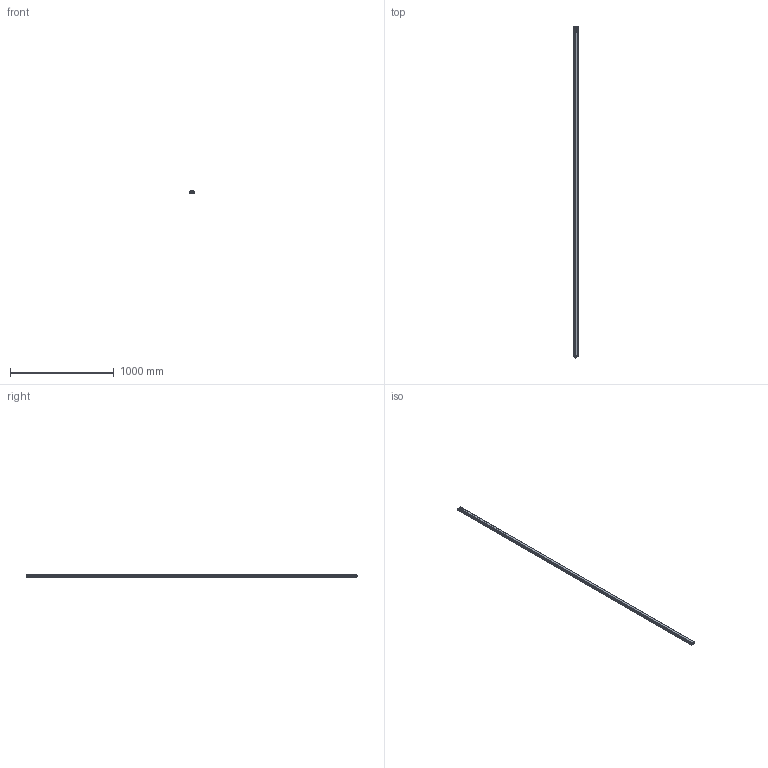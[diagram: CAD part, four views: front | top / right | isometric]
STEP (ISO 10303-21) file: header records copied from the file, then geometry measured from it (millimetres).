
FILE_DESCRIPTION(/* description */ (''),/* implementation_level */ '2;1');
FILE_NAME(/* name */ 'C:\Users\andre\SynologyDrive\Optoscan\Libreria Componenti\00 - Barriere\Polaris sorgente\Polaris_3200_TX.stp',/* time_stamp */ '2021-06-04T11:34:27+02:00',/* author */ ('andre'),/* organization */ (''),/* preprocessor_version */ 'ST-DEVELOPER v18',/* originating_system */ 'Autodesk Inventor 2020',/* authorisation */ '');
FILE_SCHEMA (('AUTOMOTIVE_DESIGN { 1 0 10303 214 3 1 1 }'));
Length unit declared in the file: millimetre
Products named in the file (1): Polaris_3200_TX
Bounding box: 40.5 x 3200.8 x 20.75 mm (x, y, z)
Volume: 626691.8 mm3; surface area: 831483.1 mm2
Topology: 1 solids, 1 shells, 722 faces, 2004 edges, 1288 vertices
Faces by surface type: plane 327, cylinder 203, bspline 115, torus 63, cone 8, sphere 6
Full cylindrical faces by diameter (mm): 1 x8, 2.5 x4, 3 x4, 3.5 x4, 5.5 x4, 8 x1, 10.5 x2, 11.75 x9, 12 x1, 12.3 x2, 14.5 x1, 16.7 x1, 17.5 x1
Entity records: 29853 total; most frequent: CARTESIAN_POINT 11151, ORIENTED_EDGE 3994, DIRECTION 3433, EDGE_CURVE 1997, VERTEX_POINT 1289, AXIS2_PLACEMENT_3D 1187, LINE 1059, VECTOR 1059
